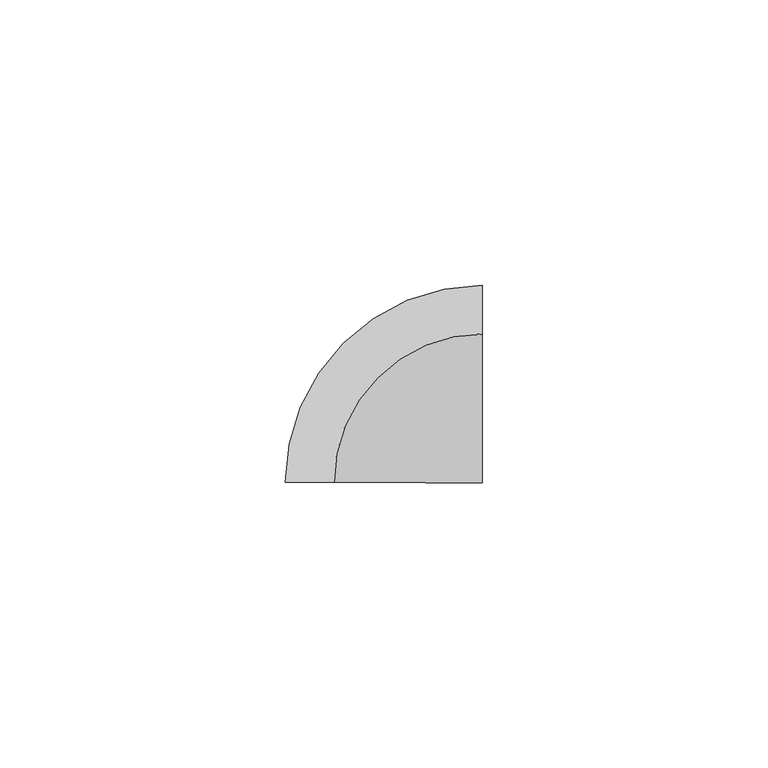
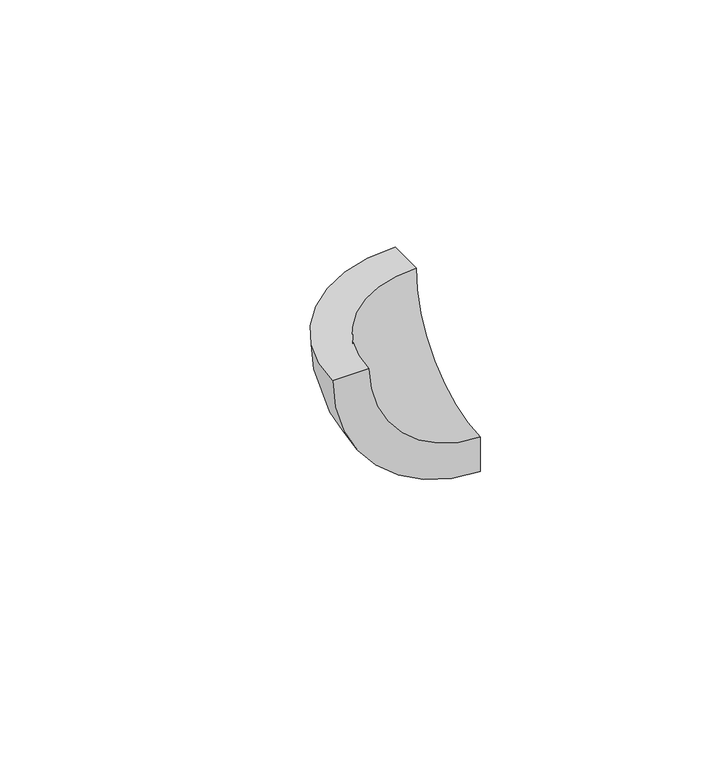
"""IFC4 building model written with IfcOpenShell, lengths in millimetres: proxy geometry, EXAGRES - Piscina Uña1 : Publica_Azul_4x4cm."""

from ifc_helpers import new_model, si_unit, point, frame, origin, place, context, project, spatial, circle_curve, ellipse_curve, trimmed, source, transform, mapped, element, save
from ifc_brep_helpers import plane_surface, revolved_surface, advanced_brep


def generic_models_9fc1b6fc(model_context):
    return source(origin(), model_context, "Body", "AdvancedBrep", [
        advanced_brep(
        [(26.0, 0.0, 26.0), (26.0, 8.5, 26.0), (-8.5, -26.0, 26.0), (0.0, -26.0, 26.0), (26.0, -26.0, 0.0), (26.0, -26.0, -8.5)],
        [
            (0, 1),
            (1, 2, circle_curve(frame((26.0, -26.0, 26.0), z_axis=(0.0, 0.0, 1.0), x_axis=(0.0, -1.0, 0.0)), 34.5)),
            (2, 3),
            (3, 0, circle_curve(frame((26.0, -26.0, 26.0), z_axis=(0.0, 0.0, -1.0), x_axis=(0.0, -1.0, 0.0)), 26.0)),
            (0, 4, circle_curve(frame((26.0, -26.0, 26.0), z_axis=(-1.0, 0.0, 0.0), x_axis=(0.0, -1.0, 0.0)), 26.0)),
            (4, 5),
            (5, 1, circle_curve(frame((26.0, -26.0, 26.0), z_axis=(1.0, 0.0, 0.0), x_axis=(0.0, -1.0, 0.0)), 34.5)),
            (5, 2, circle_curve(frame((26.0, -26.0, 26.0), z_axis=(0.0, 1.0, 0.0), x_axis=(-1.0, 0.0, 0.0)), 34.5)),
            (4, 3, circle_curve(frame((26.0, -26.0, 26.0), z_axis=(0.0, 1.0, 0.0), x_axis=(-1.0, 0.0, 0.0)), 26.0)),
        ],
        [
            plane_surface(frame((26.0, 8.5, 26.0), z_axis=(0.0, 0.0, 1.0), x_axis=(-1.0, 0.0, 0.0))),
            plane_surface(frame((26.0, 8.5, 26.0), z_axis=(1.0, 0.0, 0.0), x_axis=(0.0, 0.0, -1.0))),
            revolved_surface(trimmed(ellipse_curve(frame((26.0, -26.0, 26.0), z_axis=(0.0, 0.0, 1.0), x_axis=(0.0, -1.0, 0.0)), 34.5, 34.5), [point((26.0, 8.5, 26.0))], [point((-8.5, -26.0, 26.0))], True, "CARTESIAN"), (26.0, 8.5, 26.0), (0.0, -1.0, 0.0)),
            plane_surface(frame((26.0, -26.0, 26.0), z_axis=(0.0, -1.0, 0.0), x_axis=(-1.0, 0.0, 0.0))),
            revolved_surface(trimmed(ellipse_curve(frame((26.0, -26.0, 26.0), z_axis=(0.0, 0.0, -1.0), x_axis=(0.0, -1.0, 0.0)), 26.0, 26.0), [point((0.0, -26.0, 26.0))], [point((26.0, 0.0, 26.0))], True, "CARTESIAN"), (26.0, 8.5, 26.0), (0.0, -1.0, 0.0)),
        ],
        [
            (0, [[1, 2, 3, 4]]),
            (1, [[5, 6, 7, -1]]),
            (2, [[8, -2, -7]]),
            (3, [[9, -3, -8, -6]]),
            (4, [[-4, -9, -5]]),
        ],
    ),
    ])


if __name__ == "__main__":
    model = new_model("IFC4")
    model_context = context("Model", 3, world=origin())
    ifc_project = project(units=[si_unit("LENGTHUNIT", "METRE", prefix="MILLI")], contexts=[model_context])
    site = spatial("IfcSite", under=ifc_project)
    building = spatial("IfcBuilding", under=site)
    placement = place(None, origin())
    generic_models_shape = generic_models_9fc1b6fc(model_context)
    element("IfcBuildingElementProxy", 1, Name="EXAGRES - Piscina Uña1 : Publica_Azul_4x4cm", ObjectType="EXAGRES - Piscina Uña1 : Publica_Azul_4x4cm", at=placement, inside=building, context=model_context, shape_type="MappedRepresentation", body=[
        mapped(generic_models_shape, transform((0.0, 0.0, 0.0), x_axis=(1.0, 0.0, 0.0), y_axis=(0.0, 1.0, 0.0), z_axis=(0.0, 0.0, 1.0))),
    ])
    save(model, "model.ifc")
